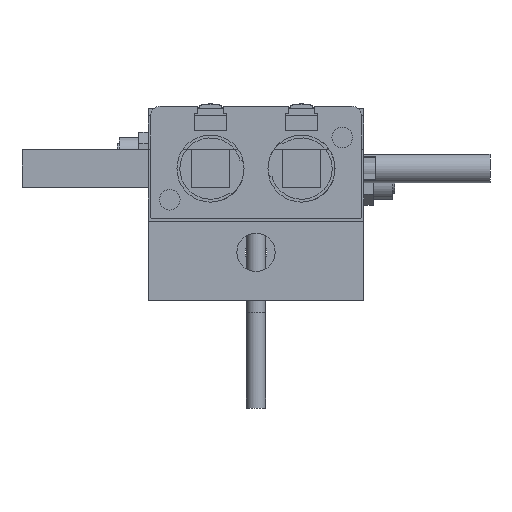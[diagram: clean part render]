
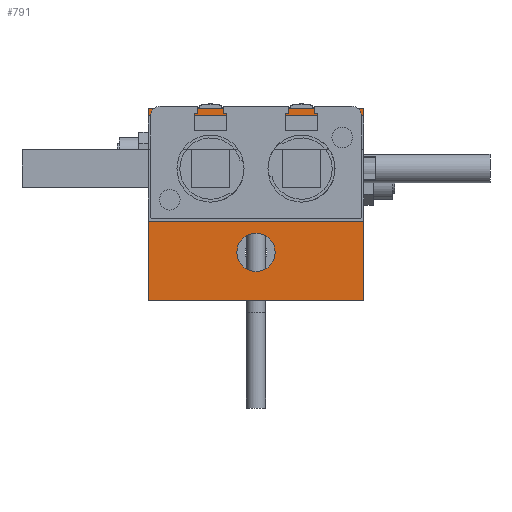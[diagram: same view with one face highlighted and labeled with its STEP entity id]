
A CAD part, front view. The second image highlights one B-rep face of the part: STEP entity #791.
In plain terms, the highlighted planar face has unit normal (0, -1, 0).
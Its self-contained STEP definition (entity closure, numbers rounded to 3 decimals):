
#791 = ADVANCED_FACE( '', ( #1901, #1902, #1903, #1904, #1905, #1906, #1907, #1908, #1909 ), #1910, .T. );
#1901 = FACE_BOUND( '', #3413, .T. );
#1902 = FACE_BOUND( '', #3414, .T. );
#1903 = FACE_BOUND( '', #3415, .T. );
#1904 = FACE_BOUND( '', #3416, .T. );
#1905 = FACE_BOUND( '', #3417, .T. );
#1906 = FACE_BOUND( '', #3418, .T. );
#1907 = FACE_BOUND( '', #3419, .T. );
#1908 = FACE_BOUND( '', #3420, .T. );
#1909 = FACE_OUTER_BOUND( '', #3421, .T. );
#1910 = PLANE( '', #3422 );
#3413 = EDGE_LOOP( '', ( #5645 ) );
#3414 = EDGE_LOOP( '', ( #5646 ) );
#3415 = EDGE_LOOP( '', ( #5647 ) );
#3416 = EDGE_LOOP( '', ( #5648 ) );
#3417 = EDGE_LOOP( '', ( #5649 ) );
#3418 = EDGE_LOOP( '', ( #5650 ) );
#3419 = EDGE_LOOP( '', ( #5651 ) );
#3420 = EDGE_LOOP( '', ( #5652 ) );
#3421 = EDGE_LOOP( '', ( #5653, #5654, #5655, #5656 ) );
#3422 = AXIS2_PLACEMENT_3D( '', #5657, #5658, #5659 );
#5645 = ORIENTED_EDGE( '', *, *, #8663, .F. );
#5646 = ORIENTED_EDGE( '', *, *, #8664, .F. );
#5647 = ORIENTED_EDGE( '', *, *, #8665, .F. );
#5648 = ORIENTED_EDGE( '', *, *, #8666, .F. );
#5649 = ORIENTED_EDGE( '', *, *, #8667, .T. );
#5650 = ORIENTED_EDGE( '', *, *, #8668, .T. );
#5651 = ORIENTED_EDGE( '', *, *, #8669, .T. );
#5652 = ORIENTED_EDGE( '', *, *, #8670, .T. );
#5653 = ORIENTED_EDGE( '', *, *, #8417, .T. );
#5654 = ORIENTED_EDGE( '', *, *, #8671, .T. );
#5655 = ORIENTED_EDGE( '', *, *, #8492, .T. );
#5656 = ORIENTED_EDGE( '', *, *, #8063, .T. );
#5657 = CARTESIAN_POINT( '', ( -22.5, -3.5, -27.5 ) );
#5658 = DIRECTION( '', ( 0., -1., 0. ) );
#5659 = DIRECTION( '', ( 0., 0., -1. ) );
#8063 = EDGE_CURVE( '', #9511, #9509, #9512, .T. );
#8417 = EDGE_CURVE( '', #9509, #10105, #10107, .T. );
#8492 = EDGE_CURVE( '', #10221, #9511, #10227, .T. );
#8663 = EDGE_CURVE( '', #10489, #10489, #10490, .T. );
#8664 = EDGE_CURVE( '', #10491, #10491, #10492, .T. );
#8665 = EDGE_CURVE( '', #10493, #10493, #10494, .T. );
#8666 = EDGE_CURVE( '', #10495, #10495, #10496, .T. );
#8667 = EDGE_CURVE( '', #10497, #10497, #10498, .T. );
#8668 = EDGE_CURVE( '', #10499, #10499, #10500, .T. );
#8669 = EDGE_CURVE( '', #10501, #10501, #10502, .T. );
#8670 = EDGE_CURVE( '', #10503, #10503, #10504, .T. );
#8671 = EDGE_CURVE( '', #10105, #10221, #10505, .T. );
#9509 = VERTEX_POINT( '', #11713 );
#9511 = VERTEX_POINT( '', #11716 );
#9512 = LINE( '', #11717, #11718 );
#10105 = VERTEX_POINT( '', #12883 );
#10107 = LINE( '', #12886, #12887 );
#10221 = VERTEX_POINT( '', #13044 );
#10227 = LINE( '', #13053, #13054 );
#10489 = VERTEX_POINT( '', #13548 );
#10490 = CIRCLE( '', #13549, 1.23 );
#10491 = VERTEX_POINT( '', #13550 );
#10492 = CIRCLE( '', #13551, 1.23 );
#10493 = VERTEX_POINT( '', #13552 );
#10494 = CIRCLE( '', #13553, 1.23 );
#10495 = VERTEX_POINT( '', #13554 );
#10496 = CIRCLE( '', #13555, 1.23 );
#10497 = VERTEX_POINT( '', #13556 );
#10498 = CIRCLE( '', #13557, 1.75 );
#10499 = VERTEX_POINT( '', #13558 );
#10500 = CIRCLE( '', #13559, 1.75 );
#10501 = VERTEX_POINT( '', #13560 );
#10502 = CIRCLE( '', #13561, 4. );
#10503 = VERTEX_POINT( '', #13562 );
#10504 = CIRCLE( '', #13563, 4. );
#10505 = LINE( '', #13564, #13565 );
#11713 = CARTESIAN_POINT( '', ( -22.5, -3.5, 12.5 ) );
#11716 = CARTESIAN_POINT( '', ( 22.5, -3.5, 12.5 ) );
#11717 = CARTESIAN_POINT( '', ( 22.5, -3.5, 12.5 ) );
#11718 = VECTOR( '', #15032, 1000. );
#12883 = CARTESIAN_POINT( '', ( -22.5, -3.5, -27.5 ) );
#12886 = CARTESIAN_POINT( '', ( -22.5, -3.5, 12.5 ) );
#12887 = VECTOR( '', #15440, 1000. );
#13044 = CARTESIAN_POINT( '', ( 22.5, -3.5, -27.5 ) );
#13053 = CARTESIAN_POINT( '', ( 22.5, -3.5, -27.5 ) );
#13054 = VECTOR( '', #15539, 1000. );
#13548 = CARTESIAN_POINT( '', ( -15.271, -3.5, 9. ) );
#13549 = AXIS2_PLACEMENT_3D( '', #15728, #15729, #15730 );
#13550 = CARTESIAN_POINT( '', ( 17.73, -3.5, -9. ) );
#13551 = AXIS2_PLACEMENT_3D( '', #15731, #15732, #15733 );
#13552 = CARTESIAN_POINT( '', ( 17.73, -3.5, 9. ) );
#13553 = AXIS2_PLACEMENT_3D( '', #15734, #15735, #15736 );
#13554 = CARTESIAN_POINT( '', ( -15.271, -3.5, -9. ) );
#13555 = AXIS2_PLACEMENT_3D( '', #15737, #15738, #15739 );
#13556 = CARTESIAN_POINT( '', ( -18.5, -3.5, -1.75 ) );
#13557 = AXIS2_PLACEMENT_3D( '', #15740, #15741, #15742 );
#13558 = CARTESIAN_POINT( '', ( 18.5, -3.5, -1.75 ) );
#13559 = AXIS2_PLACEMENT_3D( '', #15743, #15744, #15745 );
#13560 = CARTESIAN_POINT( '', ( 0., -3.5, 3.5 ) );
#13561 = AXIS2_PLACEMENT_3D( '', #15746, #15747, #15748 );
#13562 = CARTESIAN_POINT( '', ( 0., -3.5, -21.5 ) );
#13563 = AXIS2_PLACEMENT_3D( '', #15749, #15750, #15751 );
#13564 = CARTESIAN_POINT( '', ( -22.5, -3.5, -27.5 ) );
#13565 = VECTOR( '', #15752, 1000. );
#15032 = DIRECTION( '', ( -1., 0., 0. ) );
#15440 = DIRECTION( '', ( 0., 0., -1. ) );
#15539 = DIRECTION( '', ( 0., 0., 1. ) );
#15728 = CARTESIAN_POINT( '', ( -16.5, -3.5, 9. ) );
#15729 = DIRECTION( '', ( 0., -1., 0. ) );
#15730 = DIRECTION( '', ( 1., 0., 0. ) );
#15731 = CARTESIAN_POINT( '', ( 16.5, -3.5, -9. ) );
#15732 = DIRECTION( '', ( 0., -1., 0. ) );
#15733 = DIRECTION( '', ( 1., 0., 0. ) );
#15734 = CARTESIAN_POINT( '', ( 16.5, -3.5, 9. ) );
#15735 = DIRECTION( '', ( 0., -1., 0. ) );
#15736 = DIRECTION( '', ( 1., 0., 0. ) );
#15737 = CARTESIAN_POINT( '', ( -16.5, -3.5, -9. ) );
#15738 = DIRECTION( '', ( 0., -1., 0. ) );
#15739 = DIRECTION( '', ( 1., 0., 0. ) );
#15740 = CARTESIAN_POINT( '', ( -18.5, -3.5, 0. ) );
#15741 = DIRECTION( '', ( 0., 1., 0. ) );
#15742 = DIRECTION( '', ( 0., 0., -1. ) );
#15743 = CARTESIAN_POINT( '', ( 18.5, -3.5, 0. ) );
#15744 = DIRECTION( '', ( 0., 1., 0. ) );
#15745 = DIRECTION( '', ( 0., 0., -1. ) );
#15746 = CARTESIAN_POINT( '', ( 0., -3.5, 7.5 ) );
#15747 = DIRECTION( '', ( 0., 1., 0. ) );
#15748 = DIRECTION( '', ( 0., 0., -1. ) );
#15749 = CARTESIAN_POINT( '', ( 0., -3.5, -17.5 ) );
#15750 = DIRECTION( '', ( 0., 1., 0. ) );
#15751 = DIRECTION( '', ( 0., 0., -1. ) );
#15752 = DIRECTION( '', ( 1., 0., 0. ) );
